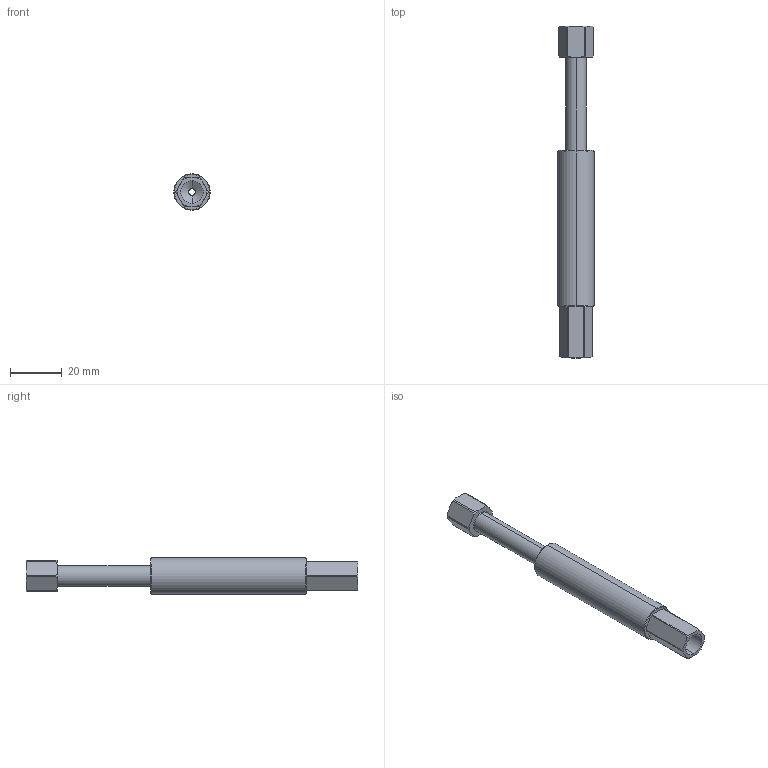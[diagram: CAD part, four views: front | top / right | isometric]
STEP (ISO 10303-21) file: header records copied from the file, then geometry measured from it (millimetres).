
FILE_DESCRIPTION (( 'STEP AP214' ), '1' );
FILE_NAME ('VFR1436-G18.STEP', '2019-11-18T05:42:50', ( '微软用户' ), ( '微软中国' ), 'SwSTEP 2.0', 'SolidWorks 2016', '' );
FILE_SCHEMA (( 'AUTOMOTIVE_DESIGN' ));
Length unit declared in the file: millimetre
Products named in the file (1): VFR1436-G18
Bounding box: 14 x 128 x 14 mm (x, y, z)
Volume: 11774.7 mm3; surface area: 9788.5 mm2
Topology: 3 solids, 3 shells, 145 faces, 334 edges, 200 vertices
Faces by surface type: cone 68, cylinder 50, plane 23, torus 4
Entity records: 5787 total; most frequent: CARTESIAN_POINT 824, DIRECTION 734, ORIENTED_EDGE 668, EDGE_CURVE 334, AXIS2_PLACEMENT_3D 302, VERTEX_POINT 200, CIRCLE 156, EDGE_LOOP 156
